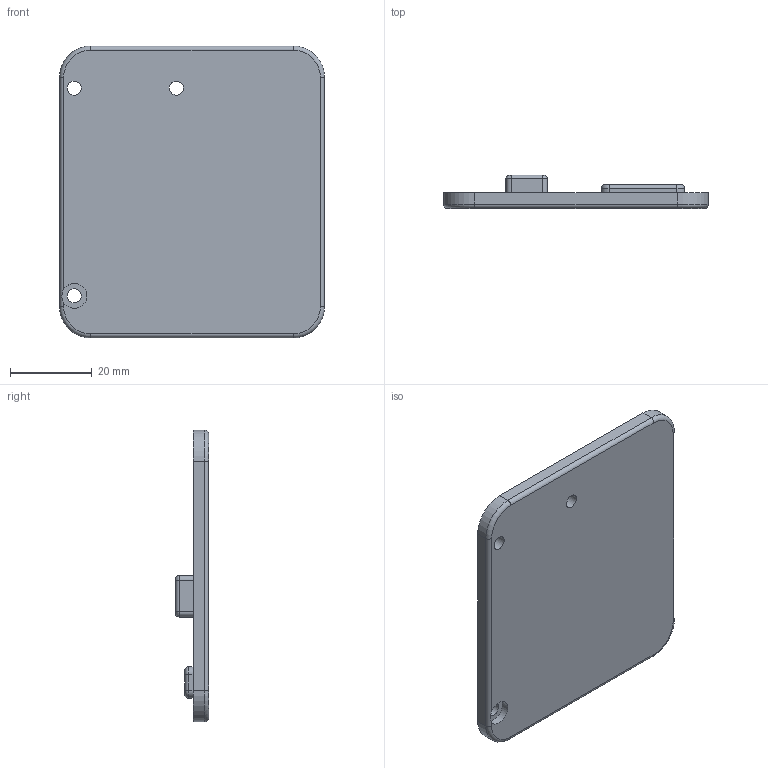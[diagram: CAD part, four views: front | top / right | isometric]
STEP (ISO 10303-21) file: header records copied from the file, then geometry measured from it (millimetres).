
FILE_DESCRIPTION(/* description */ (''),/* implementation_level */ '2;1');
FILE_NAME(/* name */ 'Case Bottom.step',/* time_stamp */ '2026-02-11T07:26:46-06:00',/* author */ (''),/* organization */ (''),/* preprocessor_version */ 'ST-DEVELOPER v20.1',/* originating_system */ 'Autodesk Translation Framework v14.24.0.0',/* authorisation */ '');
FILE_SCHEMA (('AUTOMOTIVE_DESIGN { 1 0 10303 214 3 1 1 }'));
Length unit declared in the file: inch
Products named in the file (1): Case Bottom
Bounding box: 64.77 x 8.13 x 71.37 mm (x, y, z)
Volume: 17955.7 mm3; surface area: 10341.2 mm2
Topology: 1 solids, 1 shells, 57 faces, 135 edges, 82 vertices
Faces by surface type: cylinder 28, plane 17, torus 8, bspline 4
Full cylindrical faces by diameter (mm): 3.429 x3, 6.096 x1
Entity records: 1721 total; most frequent: CARTESIAN_POINT 317, DIRECTION 309, ORIENTED_EDGE 270, EDGE_CURVE 135, AXIS2_PLACEMENT_3D 122, VERTEX_POINT 82, CIRCLE 68, LINE 65
